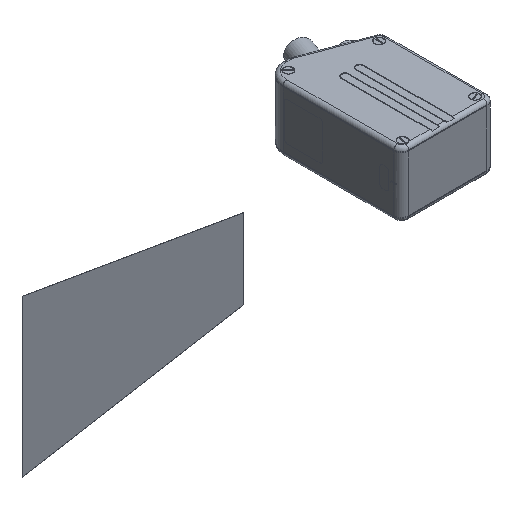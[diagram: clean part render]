
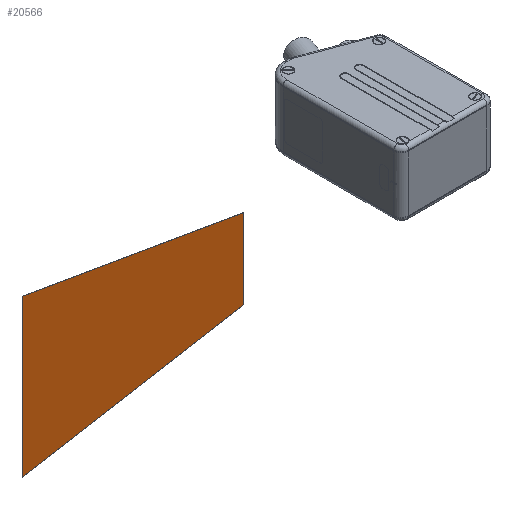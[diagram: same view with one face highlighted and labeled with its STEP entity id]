
A CAD part, isometric view. The second image highlights one B-rep face of the part: STEP entity #20566.
In plain terms, the highlighted planar face has unit normal (0, -1, 0) as drawn and (0, 0, -1) by its records, which use the part's own axes.
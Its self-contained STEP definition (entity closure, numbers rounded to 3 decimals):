
#669 = ORIENTED_EDGE ( 'NONE', *, *, #17606, .F. ) ;
#728 = VERTEX_POINT ( 'NONE', #34092 ) ;
#938 = ORIENTED_EDGE ( 'NONE', *, *, #24237, .F. ) ;
#1351 = EDGE_LOOP ( 'NONE', ( #938, #14321, #669, #3729 ) ) ;
#3729 = ORIENTED_EDGE ( 'NONE', *, *, #32737, .F. ) ;
#4598 = LINE ( 'NONE', #11486, #18374 ) ;
#5389 = VECTOR ( 'NONE', #31243, 1000. ) ;
#6515 = CARTESIAN_POINT ( 'NONE',  ( -53., 148.426, 0. ) ) ;
#6661 = CARTESIAN_POINT ( 'NONE',  ( -27., -1.574, 0. ) ) ;
#6981 = LINE ( 'NONE', #6661, #24855 ) ;
#7472 = CARTESIAN_POINT ( 'NONE',  ( -27., -1.574, 0. ) ) ;
#7941 = VECTOR ( 'NONE', #31588, 1000. ) ;
#8779 = LINE ( 'NONE', #18120, #7941 ) ;
#11486 = CARTESIAN_POINT ( 'NONE',  ( 27., -1.574, 0. ) ) ;
#12608 = FACE_OUTER_BOUND ( 'NONE', #1351, .T. ) ;
#14321 = ORIENTED_EDGE ( 'NONE', *, *, #29203, .F. ) ;
#17606 = EDGE_CURVE ( 'NONE', #728, #32672, #34098, .T. ) ;
#18120 = CARTESIAN_POINT ( 'NONE',  ( -53., 148.426, 0. ) ) ;
#18374 = VECTOR ( 'NONE', #19551, 1000. ) ;
#19282 = AXIS2_PLACEMENT_3D ( 'NONE', #31448, #31682, #34155 ) ;
#19551 = DIRECTION ( 'NONE',  ( 1., 0., 0. ) ) ;
#20564 = VERTEX_POINT ( 'NONE', #7472 ) ;
#20566 = ADVANCED_FACE ( 'NONE', ( #12608 ), #28655, .T. ) ;
#23766 = VERTEX_POINT ( 'NONE', #6515 ) ;
#24237 = EDGE_CURVE ( 'NONE', #23766, #20564, #6981, .T. ) ;
#24855 = VECTOR ( 'NONE', #33298, 1000. ) ;
#26083 = CARTESIAN_POINT ( 'NONE',  ( 53., 148.426, 0. ) ) ;
#28655 = PLANE ( 'NONE',  #19282 ) ;
#29203 = EDGE_CURVE ( 'NONE', #32672, #23766, #8779, .T. ) ;
#31243 = DIRECTION ( 'NONE',  ( 0.171, 0.985, 0. ) ) ;
#31448 = CARTESIAN_POINT ( 'NONE',  ( 0., 0., 0. ) ) ;
#31588 = DIRECTION ( 'NONE',  ( -1., 0., 0. ) ) ;
#31682 = DIRECTION ( 'NONE',  ( 0., 0., -1. ) ) ;
#32584 = CARTESIAN_POINT ( 'NONE',  ( 53., 148.426, 0. ) ) ;
#32672 = VERTEX_POINT ( 'NONE', #32584 ) ;
#32737 = EDGE_CURVE ( 'NONE', #20564, #728, #4598, .T. ) ;
#33298 = DIRECTION ( 'NONE',  ( 0.171, -0.985, 0. ) ) ;
#34092 = CARTESIAN_POINT ( 'NONE',  ( 27., -1.574, 0. ) ) ;
#34098 = LINE ( 'NONE', #26083, #5389 ) ;
#34155 = DIRECTION ( 'NONE',  ( -1., 0., 0. ) ) ;
